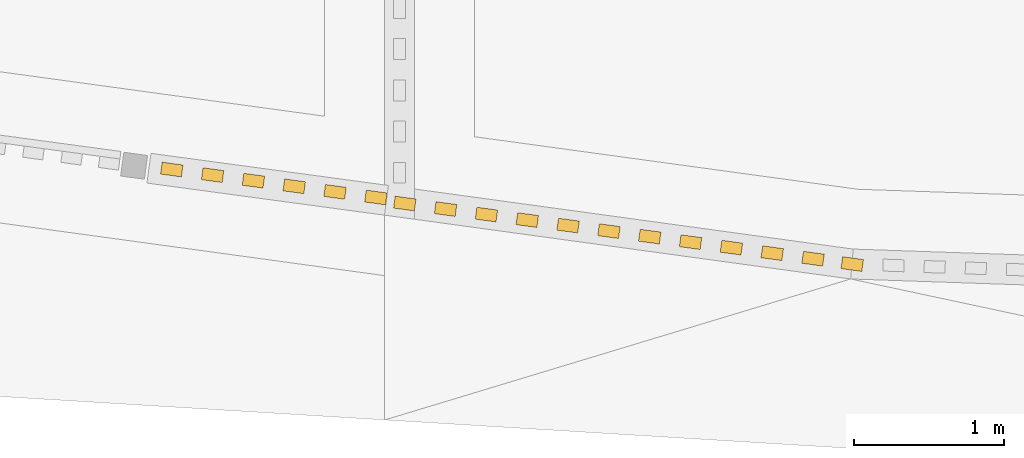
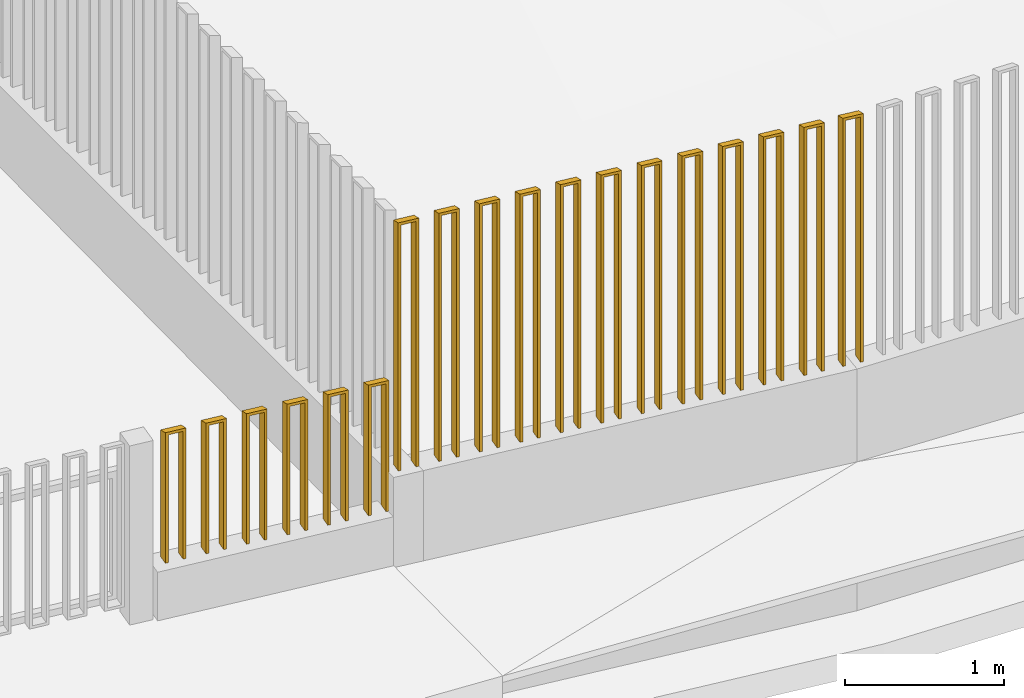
# One storey, part 65 of 77: 3 railings.
"""IFC2X3 building model written with IfcOpenShell, lengths in millimetres."""

from ifc_helpers import new_model, entity, si_unit, converted_unit, derived_unit, direction, frame, origin, place, context, subcontext, project, spatial, faceted_brep, material, element, save


model = new_model("IFC2X3")

# Units and contexts
model_context = context("Model", 3, precision=0.01, world=origin(), true_north=direction((6.12303176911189e-17, 1.0)))
body_context = subcontext(model_context, "Body", "Model", "MODEL_VIEW")
ifc_project = project(units=[si_unit("LENGTHUNIT", "METRE", prefix="MILLI"), si_unit("AREAUNIT", "SQUARE_METRE"), si_unit("VOLUMEUNIT", "CUBIC_METRE"), converted_unit("PLANEANGLEUNIT", "DEGREE", entity("IfcRatioMeasure", 0.0174532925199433), si_unit("PLANEANGLEUNIT", "RADIAN"), dimensions=[0, 0, 0, 0, 0, 0, 0]), si_unit("MASSUNIT", "GRAM", prefix="KILO"), derived_unit("MASSDENSITYUNIT", [(si_unit("MASSUNIT", "GRAM", prefix="KILO"), 1), (si_unit("LENGTHUNIT", "METRE"), -3)]), si_unit("TIMEUNIT", "SECOND"), si_unit("FREQUENCYUNIT", "HERTZ"), si_unit("THERMODYNAMICTEMPERATUREUNIT", "DEGREE_CELSIUS"), derived_unit("THERMALTRANSMITTANCEUNIT", [(si_unit("MASSUNIT", "GRAM", prefix="KILO"), 1), (si_unit("THERMODYNAMICTEMPERATUREUNIT", "KELVIN"), -1), (si_unit("TIMEUNIT", "SECOND"), -3)]), derived_unit("VOLUMETRICFLOWRATEUNIT", [(si_unit("LENGTHUNIT", "METRE"), 3), (si_unit("TIMEUNIT", "SECOND"), -1)]), si_unit("ELECTRICCURRENTUNIT", "AMPERE"), si_unit("ELECTRICVOLTAGEUNIT", "VOLT"), si_unit("POWERUNIT", "WATT"), si_unit("FORCEUNIT", "NEWTON", prefix="KILO"), si_unit("ILLUMINANCEUNIT", "LUX"), si_unit("LUMINOUSFLUXUNIT", "LUMEN"), si_unit("LUMINOUSINTENSITYUNIT", "CANDELA"), derived_unit("USERDEFINED", [(si_unit("MASSUNIT", "GRAM", prefix="KILO"), -1), (si_unit("LENGTHUNIT", "METRE"), -2), (si_unit("TIMEUNIT", "SECOND"), 3), (si_unit("LUMINOUSFLUXUNIT", "LUMEN"), 1)]), derived_unit("LINEARVELOCITYUNIT", [(si_unit("LENGTHUNIT", "METRE"), 1), (si_unit("TIMEUNIT", "SECOND"), -1)]), si_unit("PRESSUREUNIT", "PASCAL"), derived_unit("USERDEFINED", [(si_unit("LENGTHUNIT", "METRE"), -2), (si_unit("MASSUNIT", "GRAM", prefix="KILO"), 1), (si_unit("TIMEUNIT", "SECOND"), -2)])], contexts=[model_context])

# Site, building, storey
site_placement = place(None, origin())
site = spatial("IfcSite", under=ifc_project, at=site_placement, Name="Default", CompositionType="ELEMENT")
building_placement = place(site_placement, origin())
building = spatial("IfcBuilding", under=site, at=building_placement, CompositionType="ELEMENT")
storey_placement = place(building_placement, origin())
storey = spatial("IfcBuildingStorey", under=building, at=storey_placement, Name="1. KORRUS", CompositionType="ELEMENT", Elevation=0.0)

# Railings
ifc_material = material(Name="Default New Material(4)")
railing_1_placement = place(storey_placement, frame((-194.51269875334, -20202.5746519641, 250.0)))
element("IfcRailing", 1, at=railing_1_placement, inside=storey, material=ifc_material, Name="Railing:1.2m", ObjectType="Railing:1.2m", PredefinedType="NOTDEFINED", context=body_context, shape_type="Brep", body=[
    faceted_brep([(1500.99463739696, 0.0, 0.0), (1511.84738780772, 79.2604428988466, 0.0), (1511.84738780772, 79.2604428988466, 970.882381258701), (1500.99463739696, 0.0, 1000.0), (1481.17952667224, 2.71318760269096, 0.0), (1481.17952667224, 2.71318760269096, 978.716444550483), (1492.032277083, 81.9736305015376, 949.598825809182), (1492.032277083, 81.9736305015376, 0.0), (1362.28886232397, 18.9923132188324, 1000.0), (1362.28886232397, 18.9923132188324, 0.0), (1382.10397304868, 16.2791256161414, 0.0), (1382.10397304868, 16.2791256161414, 978.716444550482), (1373.14161273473, 98.252756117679, 970.882381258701), (1392.95672345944, 95.539568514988, 949.598825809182), (1392.95672345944, 95.539568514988, 0.0), (1373.14161273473, 98.252756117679, 0.0)], [[[0, 1, 2, 3]], [[4, 5, 6, 7]], [[3, 8, 9, 10, 11, 5, 4, 0]], [[2, 12, 8, 3]], [[1, 7, 6, 13, 14, 15, 12, 2]], [[0, 4, 7, 1]], [[6, 5, 11, 13]], [[14, 13, 11, 10]], [[9, 8, 12, 15]], [[10, 9, 15, 14]]]),
    faceted_brep([(1228.53686493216, 37.306329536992, 0.0), (1239.38961534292, 116.566772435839, 0.0), (1239.38961534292, 116.566772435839, 970.882381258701), (1228.53686493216, 37.306329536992, 1000.0), (1208.72175420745, 40.019517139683, 0.0), (1208.72175420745, 40.019517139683, 978.716444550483), (1219.57450461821, 119.27996003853, 949.598825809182), (1219.57450461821, 119.27996003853, 0.0), (1089.83108985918, 56.2986427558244, 1000.0), (1089.83108985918, 56.2986427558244, 0.0), (1109.64620058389, 53.5854551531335, 0.0), (1109.64620058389, 53.5854551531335, 978.716444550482), (1100.68384026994, 135.559085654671, 970.882381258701), (1120.49895099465, 132.84589805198, 949.598825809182), (1120.49895099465, 132.84589805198, 0.0), (1100.68384026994, 135.559085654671, 0.0)], [[[0, 1, 2, 3]], [[4, 5, 6, 7]], [[3, 8, 9, 10, 11, 5, 4, 0]], [[2, 12, 8, 3]], [[1, 7, 6, 13, 14, 15, 12, 2]], [[0, 4, 7, 1]], [[6, 5, 11, 13]], [[14, 13, 11, 10]], [[9, 8, 12, 15]], [[10, 9, 15, 14]]]),
    faceted_brep([(956.079092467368, 74.6126590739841, 0.0), (966.931842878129, 153.873101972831, 0.0), (966.931842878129, 153.873101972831, 970.882381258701), (956.079092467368, 74.6126590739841, 1000.0), (936.263981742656, 77.325846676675, 0.0), (936.263981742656, 77.325846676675, 978.716444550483), (947.116732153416, 156.586289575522, 949.598825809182), (947.116732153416, 156.586289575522, 0.0), (817.373317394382, 93.6049722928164, 1000.0), (817.373317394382, 93.6049722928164, 0.0), (837.188428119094, 90.8917846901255, 0.0), (837.188428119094, 90.8917846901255, 978.716444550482), (828.226067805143, 172.865415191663, 970.882381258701), (848.041178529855, 170.152227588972, 949.598825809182), (848.041178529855, 170.152227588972, 0.0), (828.226067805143, 172.865415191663, 0.0)], [[[0, 1, 2, 3]], [[4, 5, 6, 7]], [[3, 8, 9, 10, 11, 5, 4, 0]], [[2, 12, 8, 3]], [[1, 7, 6, 13, 14, 15, 12, 2]], [[0, 4, 7, 1]], [[6, 5, 11, 13]], [[14, 13, 11, 10]], [[9, 8, 12, 15]], [[10, 9, 15, 14]]]),
    faceted_brep([(683.621320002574, 111.918988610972, 0.0), (694.474070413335, 191.179431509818, 0.0), (694.474070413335, 191.179431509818, 970.882381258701), (683.621320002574, 111.918988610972, 1000.0), (663.806209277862, 114.632176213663, 0.0), (663.806209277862, 114.632176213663, 978.716444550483), (674.658959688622, 193.892619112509, 949.598825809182), (674.658959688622, 193.892619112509, 0.0), (544.915544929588, 130.911301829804, 1000.0), (544.915544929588, 130.911301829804, 0.0), (564.7306556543, 128.198114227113, 0.0), (564.7306556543, 128.198114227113, 978.716444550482), (555.768295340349, 210.171744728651, 970.882381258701), (575.583406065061, 207.45855712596, 949.598825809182), (575.583406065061, 207.45855712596, 0.0), (555.768295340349, 210.171744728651, 0.0)], [[[0, 1, 2, 3]], [[4, 5, 6, 7]], [[3, 8, 9, 10, 11, 5, 4, 0]], [[2, 12, 8, 3]], [[1, 7, 6, 13, 14, 15, 12, 2]], [[0, 4, 7, 1]], [[6, 5, 11, 13]], [[14, 13, 11, 10]], [[9, 8, 12, 15]], [[10, 9, 15, 14]]]),
    faceted_brep([(411.16354753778, 149.225318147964, 0.0), (422.016297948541, 228.48576104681, 0.0), (422.016297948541, 228.48576104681, 970.882381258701), (411.16354753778, 149.225318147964, 1000.0), (391.348436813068, 151.938505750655, 0.0), (391.348436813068, 151.938505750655, 978.716444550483), (402.201187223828, 231.198948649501, 949.598825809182), (402.201187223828, 231.198948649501, 0.0), (272.457772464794, 168.217631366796, 1000.0), (272.457772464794, 168.217631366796, 0.0), (292.272883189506, 165.504443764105, 0.0), (292.272883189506, 165.504443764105, 978.716444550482), (283.310522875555, 247.478074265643, 970.882381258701), (303.125633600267, 244.764886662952, 949.598825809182), (303.125633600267, 244.764886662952, 0.0), (283.310522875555, 247.478074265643, 0.0)], [[[0, 1, 2, 3]], [[4, 5, 6, 7]], [[3, 8, 9, 10, 11, 5, 4, 0]], [[2, 12, 8, 3]], [[1, 7, 6, 13, 14, 15, 12, 2]], [[0, 4, 7, 1]], [[6, 5, 11, 13]], [[14, 13, 11, 10]], [[9, 8, 12, 15]], [[10, 9, 15, 14]]]),
    faceted_brep([(138.705775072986, 186.531647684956, 0.0), (149.558525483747, 265.792090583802, 0.0), (149.558525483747, 265.792090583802, 970.882381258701), (138.705775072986, 186.531647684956, 1000.0), (118.890664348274, 189.244835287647, 0.0), (118.890664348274, 189.244835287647, 978.716444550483), (129.743414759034, 268.505278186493, 949.598825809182), (129.743414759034, 268.505278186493, 0.0), (0.0, 205.523960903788, 1000.0), (0.0, 205.523960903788, 0.0), (19.8151107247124, 202.810773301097, 0.0), (19.8151107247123, 202.810773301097, 978.716444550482), (10.8527504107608, 284.784403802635, 970.882381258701), (30.6678611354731, 282.071216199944, 949.598825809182), (30.6678611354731, 282.071216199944, 0.0), (10.8527504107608, 284.784403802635, 0.0)], [[[0, 1, 2, 3]], [[4, 5, 6, 7]], [[3, 8, 9, 10, 11, 5, 4, 0]], [[2, 12, 8, 3]], [[1, 7, 6, 13, 14, 15, 12, 2]], [[0, 4, 7, 1]], [[6, 5, 11, 13]], [[14, 13, 11, 10]], [[9, 8, 12, 15]], [[10, 9, 15, 14]]]),
])
railing_2_placement = place(storey_placement, frame((1360.70823583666, -20611.1882553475, 550.0)))
element("IfcRailing", 2, at=railing_2_placement, inside=storey, material=ifc_material, Name="Railing:2m 3", ObjectType="Railing:2m 3", PredefinedType="NOTDEFINED", context=body_context, shape_type="Brep", body=[
    faceted_brep([(2863.96256320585, 0.0, 0.0), (2874.67713389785, 79.2792405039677, 0.0), (2874.67713389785, 79.2792405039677, 1870.8823812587), (2863.96256320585, 0.0, 1900.0), (2725.2238923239, 18.7504987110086, 1900.0), (2725.2238923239, 18.7504987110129, 0.0), (2745.04370244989, 16.0718560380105, 0.0), (2745.04370244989, 16.0718560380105, 1878.71644455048), (2844.14275307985, 2.67864267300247, 1878.71644455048), (2844.14275307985, 2.67864267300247, 0.0), (2854.85732377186, 81.9578831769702, 0.0), (2854.85732377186, 81.9578831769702, 1849.59882580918), (2755.7582731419, 95.3510965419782, 1849.59882580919), (2755.7582731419, 95.3510965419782, 0.0), (2735.93846301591, 98.0297392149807, 0.0), (2735.93846301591, 98.0297392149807, 1870.8823812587)], [[[0, 1, 2, 3]], [[3, 4, 5, 6, 7, 8, 9, 0]], [[1, 10, 11, 12, 13, 14, 15, 2]], [[0, 9, 10, 1]], [[9, 8, 11, 10]], [[13, 12, 7, 6]], [[6, 5, 14, 13]], [[5, 4, 15, 14]], [[2, 15, 4, 3]], [[11, 8, 7, 12]]]),
    faceted_brep([(2591.44017397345, 36.8313367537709, 0.0), (2602.15474466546, 116.110577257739, 0.0), (2602.15474466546, 116.110577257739, 1870.8823812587), (2591.44017397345, 36.8313367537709, 1900.0), (2452.70150309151, 55.5818354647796, 1900.0), (2452.70150309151, 55.5818354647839, 0.0), (2472.5213132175, 52.9031927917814, 0.0), (2472.5213132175, 52.9031927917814, 1878.71644455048), (2571.62036384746, 39.5099794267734, 1878.71644455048), (2571.62036384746, 39.5099794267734, 0.0), (2582.33493453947, 118.789219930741, 0.0), (2582.33493453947, 118.789219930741, 1849.59882580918), (2483.23588390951, 132.182433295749, 1849.59882580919), (2483.23588390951, 132.182433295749, 0.0), (2463.41607378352, 134.861075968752, 0.0), (2463.41607378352, 134.861075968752, 1870.8823812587)], [[[0, 1, 2, 3]], [[3, 4, 5, 6, 7, 8, 9, 0]], [[1, 10, 11, 12, 13, 14, 15, 2]], [[0, 9, 10, 1]], [[9, 8, 11, 10]], [[13, 12, 7, 6]], [[6, 5, 14, 13]], [[5, 4, 15, 14]], [[2, 15, 4, 3]], [[11, 8, 7, 12]]]),
    faceted_brep([(2318.91778474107, 73.6626735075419, 0.0), (2329.63235543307, 152.94191401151, 0.0), (2329.63235543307, 152.94191401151, 1870.8823812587), (2318.91778474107, 73.6626735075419, 1900.0), (2180.17911385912, 92.4131722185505, 1900.0), (2180.17911385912, 92.4131722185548, 0.0), (2199.99892398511, 89.7345295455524, 0.0), (2199.99892398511, 89.7345295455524, 1878.71644455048), (2299.09797461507, 76.3413161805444, 1878.71644455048), (2299.09797461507, 76.3413161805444, 0.0), (2309.81254530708, 155.620556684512, 0.0), (2309.81254530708, 155.620556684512, 1849.59882580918), (2210.71349467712, 169.01377004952, 1849.59882580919), (2210.71349467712, 169.01377004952, 0.0), (2190.89368455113, 171.692412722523, 0.0), (2190.89368455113, 171.692412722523, 1870.8823812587)], [[[0, 1, 2, 3]], [[3, 4, 5, 6, 7, 8, 9, 0]], [[1, 10, 11, 12, 13, 14, 15, 2]], [[0, 9, 10, 1]], [[9, 8, 11, 10]], [[13, 12, 7, 6]], [[6, 5, 14, 13]], [[5, 4, 15, 14]], [[2, 15, 4, 3]], [[11, 8, 7, 12]]]),
    faceted_brep([(2046.39539550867, 110.494010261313, 0.0), (2057.10996620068, 189.773250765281, 0.0), (2057.10996620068, 189.773250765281, 1870.8823812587), (2046.39539550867, 110.494010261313, 1900.0), (1907.65672462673, 129.244508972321, 1900.0), (1907.65672462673, 129.244508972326, 0.0), (1927.47653475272, 126.565866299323, 0.0), (1927.47653475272, 126.565866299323, 1878.71644455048), (2026.57558538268, 113.172652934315, 1878.71644455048), (2026.57558538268, 113.172652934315, 0.0), (2037.29015607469, 192.451893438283, 0.0), (2037.29015607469, 192.451893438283, 1849.59882580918), (1938.19110544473, 205.845106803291, 1849.59882580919), (1938.19110544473, 205.845106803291, 0.0), (1918.37129531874, 208.523749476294, 0.0), (1918.37129531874, 208.523749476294, 1870.8823812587)], [[[0, 1, 2, 3]], [[3, 4, 5, 6, 7, 8, 9, 0]], [[1, 10, 11, 12, 13, 14, 15, 2]], [[0, 9, 10, 1]], [[9, 8, 11, 10]], [[13, 12, 7, 6]], [[6, 5, 14, 13]], [[5, 4, 15, 14]], [[2, 15, 4, 3]], [[11, 8, 7, 12]]]),
    faceted_brep([(1773.87300627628, 147.325347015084, 0.0), (1784.58757696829, 226.604587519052, 0.0), (1784.58757696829, 226.604587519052, 1870.8823812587), (1773.87300627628, 147.325347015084, 1900.0), (1635.13433539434, 166.075845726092, 1900.0), (1635.13433539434, 166.075845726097, 0.0), (1654.95414552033, 163.397203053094, 0.0), (1654.95414552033, 163.397203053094, 1878.71644455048), (1754.05319615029, 150.003989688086, 1878.71644455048), (1754.05319615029, 150.003989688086, 0.0), (1764.7677668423, 229.283230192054, 0.0), (1764.7677668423, 229.283230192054, 1849.59882580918), (1665.66871621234, 242.676443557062, 1849.59882580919), (1665.66871621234, 242.676443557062, 0.0), (1645.84890608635, 245.355086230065, 0.0), (1645.84890608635, 245.355086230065, 1870.8823812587)], [[[0, 1, 2, 3]], [[3, 4, 5, 6, 7, 8, 9, 0]], [[1, 10, 11, 12, 13, 14, 15, 2]], [[0, 9, 10, 1]], [[9, 8, 11, 10]], [[13, 12, 7, 6]], [[6, 5, 14, 13]], [[5, 4, 15, 14]], [[2, 15, 4, 3]], [[11, 8, 7, 12]]]),
    faceted_brep([(1501.35061704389, 184.156683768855, 0.0), (1512.0651877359, 263.435924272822, 0.0), (1512.0651877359, 263.435924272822, 1870.8823812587), (1501.35061704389, 184.156683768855, 1900.0), (1362.61194616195, 202.907182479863, 1900.0), (1362.61194616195, 202.907182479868, 0.0), (1382.43175628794, 200.228539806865, 0.0), (1382.43175628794, 200.228539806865, 1878.71644455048), (1481.5308069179, 186.835326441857, 1878.71644455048), (1481.5308069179, 186.835326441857, 0.0), (1492.24537760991, 266.114566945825, 0.0), (1492.24537760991, 266.114566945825, 1849.59882580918), (1393.14632697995, 279.507780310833, 1849.59882580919), (1393.14632697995, 279.507780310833, 0.0), (1373.32651685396, 282.186422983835, 0.0), (1373.32651685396, 282.186422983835, 1870.8823812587)], [[[0, 1, 2, 3]], [[3, 4, 5, 6, 7, 8, 9, 0]], [[1, 10, 11, 12, 13, 14, 15, 2]], [[0, 9, 10, 1]], [[9, 8, 11, 10]], [[13, 12, 7, 6]], [[6, 5, 14, 13]], [[5, 4, 15, 14]], [[2, 15, 4, 3]], [[11, 8, 7, 12]]]),
    faceted_brep([(1228.82822781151, 220.988020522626, 0.0), (1239.54279850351, 300.267261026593, 0.0), (1239.54279850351, 300.267261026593, 1870.8823812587), (1228.82822781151, 220.988020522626, 1900.0), (1090.08955692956, 239.738519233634, 1900.0), (1090.08955692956, 239.738519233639, 0.0), (1109.90936705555, 237.059876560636, 0.0), (1109.90936705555, 237.059876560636, 1878.71644455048), (1209.00841768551, 223.666663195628, 1878.71644455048), (1209.00841768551, 223.666663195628, 0.0), (1219.72298837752, 302.945903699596, 0.0), (1219.72298837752, 302.945903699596, 1849.59882580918), (1120.62393774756, 316.339117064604, 1849.59882580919), (1120.62393774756, 316.339117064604, 0.0), (1100.80412762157, 319.017759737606, 0.0), (1100.80412762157, 319.017759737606, 1870.8823812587)], [[[0, 1, 2, 3]], [[3, 4, 5, 6, 7, 8, 9, 0]], [[1, 10, 11, 12, 13, 14, 15, 2]], [[0, 9, 10, 1]], [[9, 8, 11, 10]], [[13, 12, 7, 6]], [[6, 5, 14, 13]], [[5, 4, 15, 14]], [[2, 15, 4, 3]], [[11, 8, 7, 12]]]),
    faceted_brep([(956.305838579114, 257.819357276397, 0.0), (967.02040927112, 337.098597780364, 0.0), (967.02040927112, 337.098597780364, 1870.8823812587), (956.305838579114, 257.819357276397, 1900.0), (817.56716769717, 276.569855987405, 1900.0), (817.56716769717, 276.56985598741, 0.0), (837.386977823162, 273.891213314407, 0.0), (837.386977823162, 273.891213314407, 1878.71644455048), (936.486028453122, 260.497999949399, 1878.71644455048), (936.486028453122, 260.497999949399, 0.0), (947.200599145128, 339.777240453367, 0.0), (947.200599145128, 339.777240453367, 1849.59882580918), (848.101548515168, 353.170453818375, 1849.59882580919), (848.101548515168, 353.170453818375, 0.0), (828.281738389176, 355.849096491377, 0.0), (828.281738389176, 355.849096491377, 1870.8823812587)], [[[0, 1, 2, 3]], [[3, 4, 5, 6, 7, 8, 9, 0]], [[1, 10, 11, 12, 13, 14, 15, 2]], [[0, 9, 10, 1]], [[9, 8, 11, 10]], [[13, 12, 7, 6]], [[6, 5, 14, 13]], [[5, 4, 15, 14]], [[2, 15, 4, 3]], [[11, 8, 7, 12]]]),
    faceted_brep([(683.783449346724, 294.650694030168, 0.0), (694.49802003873, 373.929934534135, 0.0), (694.49802003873, 373.929934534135, 1870.8823812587), (683.783449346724, 294.650694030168, 1900.0), (545.04477846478, 313.401192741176, 1900.0), (545.04477846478, 313.401192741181, 0.0), (564.864588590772, 310.722550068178, 0.0), (564.864588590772, 310.722550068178, 1878.71644455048), (663.963639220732, 297.32933670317, 1878.71644455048), (663.963639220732, 297.32933670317, 0.0), (674.678209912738, 376.608577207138, 0.0), (674.678209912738, 376.608577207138, 1849.59882580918), (575.579159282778, 390.001790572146, 1849.59882580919), (575.579159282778, 390.001790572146, 0.0), (555.759349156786, 392.680433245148, 0.0), (555.759349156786, 392.680433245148, 1870.8823812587)], [[[0, 1, 2, 3]], [[3, 4, 5, 6, 7, 8, 9, 0]], [[1, 10, 11, 12, 13, 14, 15, 2]], [[0, 9, 10, 1]], [[9, 8, 11, 10]], [[13, 12, 7, 6]], [[6, 5, 14, 13]], [[5, 4, 15, 14]], [[2, 15, 4, 3]], [[11, 8, 7, 12]]]),
    faceted_brep([(411.261060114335, 331.482030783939, 0.0), (421.975630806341, 410.761271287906, 0.0), (421.975630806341, 410.761271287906, 1870.8823812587), (411.261060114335, 331.482030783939, 1900.0), (272.522389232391, 350.232529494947, 1900.0), (272.522389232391, 350.232529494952, 0.0), (292.342199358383, 347.553886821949, 0.0), (292.342199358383, 347.553886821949, 1878.71644455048), (391.441249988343, 334.160673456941, 1878.71644455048), (391.441249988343, 334.160673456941, 0.0), (402.155820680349, 413.439913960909, 0.0), (402.155820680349, 413.439913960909, 1849.59882580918), (303.056770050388, 426.833127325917, 1849.59882580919), (303.056770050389, 426.833127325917, 0.0), (283.236959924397, 429.511769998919, 0.0), (283.236959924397, 429.511769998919, 1870.8823812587)], [[[0, 1, 2, 3]], [[3, 4, 5, 6, 7, 8, 9, 0]], [[1, 10, 11, 12, 13, 14, 15, 2]], [[0, 9, 10, 1]], [[9, 8, 11, 10]], [[13, 12, 7, 6]], [[6, 5, 14, 13]], [[5, 4, 15, 14]], [[2, 15, 4, 3]], [[11, 8, 7, 12]]]),
    faceted_brep([(138.738670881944, 368.313367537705, 0.0), (149.45324157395, 447.592608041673, 0.0), (149.45324157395, 447.592608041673, 1870.8823812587), (138.738670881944, 368.313367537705, 1900.0), (0.0, 387.063866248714, 1900.0), (0.0, 387.063866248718, 0.0), (19.8198101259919, 384.385223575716, 0.0), (19.8198101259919, 384.385223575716, 1878.71644455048), (118.918860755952, 370.992010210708, 1878.71644455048), (118.918860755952, 370.992010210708, 0.0), (129.633431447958, 450.271250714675, 0.0), (129.633431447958, 450.271250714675, 1849.59882580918), (30.5343808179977, 463.664464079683, 1849.59882580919), (30.534380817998, 463.664464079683, 0.0), (10.7145706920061, 466.343106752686, 0.0), (10.7145706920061, 466.343106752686, 1870.8823812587)], [[[0, 1, 2, 3]], [[3, 4, 5, 6, 7, 8, 9, 0]], [[1, 10, 11, 12, 13, 14, 15, 2]], [[0, 9, 10, 1]], [[9, 8, 11, 10]], [[13, 12, 7, 6]], [[6, 5, 14, 13]], [[5, 4, 15, 14]], [[2, 15, 4, 3]], [[11, 8, 7, 12]]]),
])
railing_3_placement = place(storey_placement, frame((4347.24759683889, -20646.9996070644, 550.0)))
element("IfcRailing", 3, at=railing_3_placement, inside=storey, material=ifc_material, Name="Railing:2m 1 kaar", ObjectType="Railing:2m 1 kaar", PredefinedType="NOTDEFINED", context=body_context, shape_type="Brep", body=[
    faceted_brep([(138.705775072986, 0.0, 0.0), (149.558525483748, 79.2604428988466, 0.0), (149.558525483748, 79.2604428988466, 1870.8823812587), (138.705775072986, 0.0, 1900.0), (0.0, 18.9923132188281, 1900.0), (0.0, 18.9923132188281, 0.0), (19.8151107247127, 16.2791256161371, 0.0), (19.8151107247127, 16.2791256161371, 1878.71644455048), (118.890664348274, 2.71318760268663, 1878.71644455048), (118.890664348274, 2.71318760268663, 0.0), (129.743414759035, 81.9736305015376, 0.0), (129.743414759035, 81.9736305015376, 1849.59882580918), (30.6678611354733, 95.5395685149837, 1849.59882580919), (30.6678611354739, 95.539568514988, 0.0), (10.8527504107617, 98.252756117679, 0.0), (10.8527504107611, 98.252756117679, 1870.8823812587)], [[[0, 1, 2, 3]], [[3, 4, 5, 6, 7, 8, 9, 0]], [[1, 10, 11, 12, 13, 14, 15, 2]], [[0, 9, 10, 1]], [[9, 8, 11, 10]], [[13, 12, 7, 6]], [[6, 5, 14, 13]], [[5, 4, 15, 14]], [[2, 15, 4, 3]], [[11, 8, 7, 12]]]),
])

save(model, "model.ifc")
